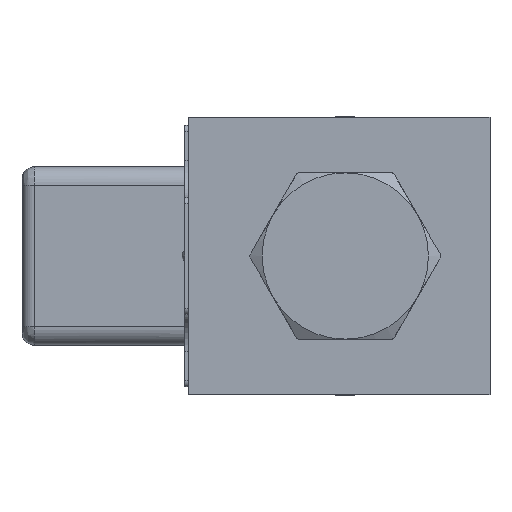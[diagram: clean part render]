
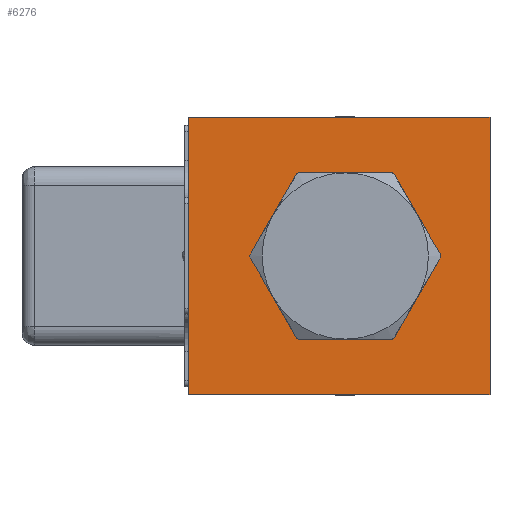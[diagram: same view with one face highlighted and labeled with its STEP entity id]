
A CAD part, left-side view. The second image highlights one B-rep face of the part: STEP entity #6276.
In plain terms, the highlighted planar face has unit normal (-1, 0, 0).
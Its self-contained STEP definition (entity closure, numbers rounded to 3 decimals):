
#13=DIRECTION('',(0.,0.,-1.));
#14=VECTOR('',#13,45.);
#15=CARTESIAN_POINT('',(-34.,25.5,22.5));
#16=LINE('',#15,#14);
#498=DIRECTION('',(0.,1.,0.));
#499=VECTOR('',#498,49.);
#500=CARTESIAN_POINT('',(-34.,-23.5,22.5));
#501=LINE('',#500,#499);
#598=DIRECTION('',(0.,1.,0.));
#599=VECTOR('',#598,49.);
#600=CARTESIAN_POINT('',(-34.,-23.5,-22.5));
#601=LINE('',#600,#599);
#602=DIRECTION('',(0.,0.,-1.));
#603=VECTOR('',#602,45.);
#604=CARTESIAN_POINT('',(-34.,-23.5,22.5));
#605=LINE('',#604,#603);
#606=CARTESIAN_POINT('',(-34.,0.,0.));
#607=DIRECTION('',(-1.,0.,0.));
#608=DIRECTION('',(0.,-1.,0.));
#609=AXIS2_PLACEMENT_3D('',#606,#607,#608);
#611=CARTESIAN_POINT('',(-34.,0.,0.));
#612=DIRECTION('',(-1.,0.,0.));
#613=DIRECTION('',(0.,1.,0.));
#614=AXIS2_PLACEMENT_3D('',#611,#612,#613);
#4561=CARTESIAN_POINT('',(-34.,25.5,-22.5));
#4563=VERTEX_POINT('',#4561);
#4567=CARTESIAN_POINT('',(-34.,25.5,22.5));
#4568=VERTEX_POINT('',#4567);
#4651=CARTESIAN_POINT('',(-34.,-23.5,-22.5));
#4652=VERTEX_POINT('',#4651);
#4893=CARTESIAN_POINT('',(-34.,-23.5,22.5));
#4894=VERTEX_POINT('',#4893);
#5091=CARTESIAN_POINT('',(-34.,-13.,0.));
#5092=CARTESIAN_POINT('',(-34.,13.,0.));
#5093=VERTEX_POINT('',#5091);
#5094=VERTEX_POINT('',#5092);
#6259=CARTESIAN_POINT('',(-34.,25.5,-22.5));
#6260=DIRECTION('',(-1.,0.,0.));
#6261=DIRECTION('',(0.,-1.,0.));
#6262=AXIS2_PLACEMENT_3D('',#6259,#6260,#6261);
#6263=PLANE('',#6262);
#6264=ORIENTED_EDGE('',*,*,#5655,.T.);
#6265=ORIENTED_EDGE('',*,*,#5565,.F.);
#6266=ORIENTED_EDGE('',*,*,#6179,.F.);
#6267=ORIENTED_EDGE('',*,*,#6204,.T.);
#6268=EDGE_LOOP('',(#6264,#6265,#6266,#6267));
#6269=FACE_OUTER_BOUND('',#6268,.F.);
#6271=ORIENTED_EDGE('',*,*,#6270,.T.);
#6273=ORIENTED_EDGE('',*,*,#6272,.T.);
#6274=EDGE_LOOP('',(#6271,#6273));
#6275=FACE_BOUND('',#6274,.F.);
#610=CIRCLE('',#609,13.);
#615=CIRCLE('',#614,13.);
#5565=EDGE_CURVE('',#4568,#4563,#16,.T.);
#5655=EDGE_CURVE('',#4652,#4563,#601,.T.);
#6179=EDGE_CURVE('',#4894,#4568,#501,.T.);
#6204=EDGE_CURVE('',#4894,#4652,#605,.T.);
#6270=EDGE_CURVE('',#5093,#5094,#610,.T.);
#6272=EDGE_CURVE('',#5094,#5093,#615,.T.);
#6276=ADVANCED_FACE('',(#6269,#6275),#6263,.T.);
